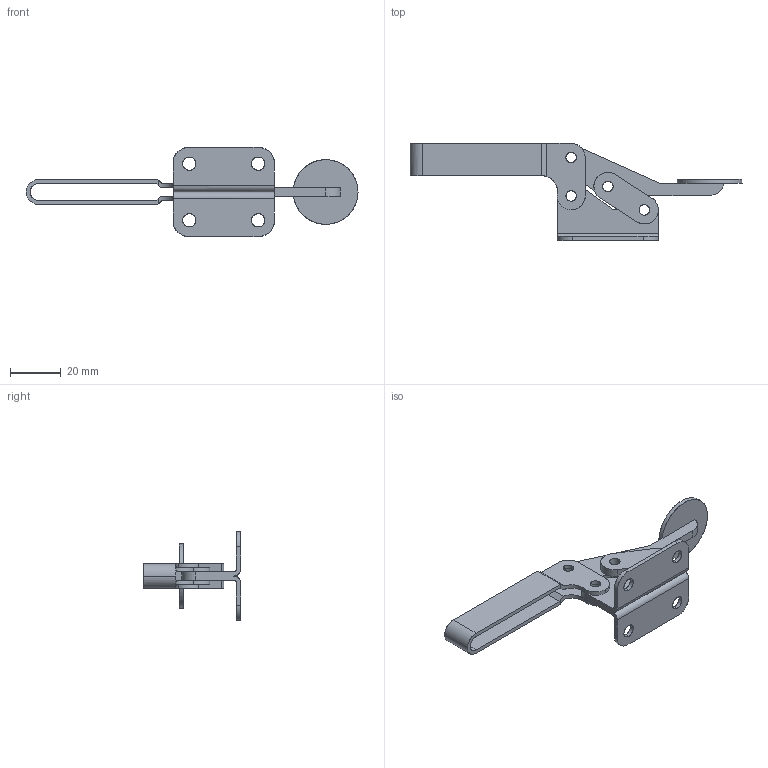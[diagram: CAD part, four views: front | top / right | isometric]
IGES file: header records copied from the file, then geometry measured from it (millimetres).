
Start section: Comment
Global section: file name: 22100.igs; native system:  By Spatial Corp.; preprocessor: XPlus PS/IGES 3.0; author: Author; organization: Title; date: 20050217.081458; units: inch
Bounding box: 130.24 x 38.1 x 34.92 mm (x, y, z)
Surface area: 13227 mm2 (no closed solid volume)
Topology: 0 solids, 0 shells, 113 faces, 614 edges, 614 vertices
Faces by surface type: revolution 68, extrusion 45
